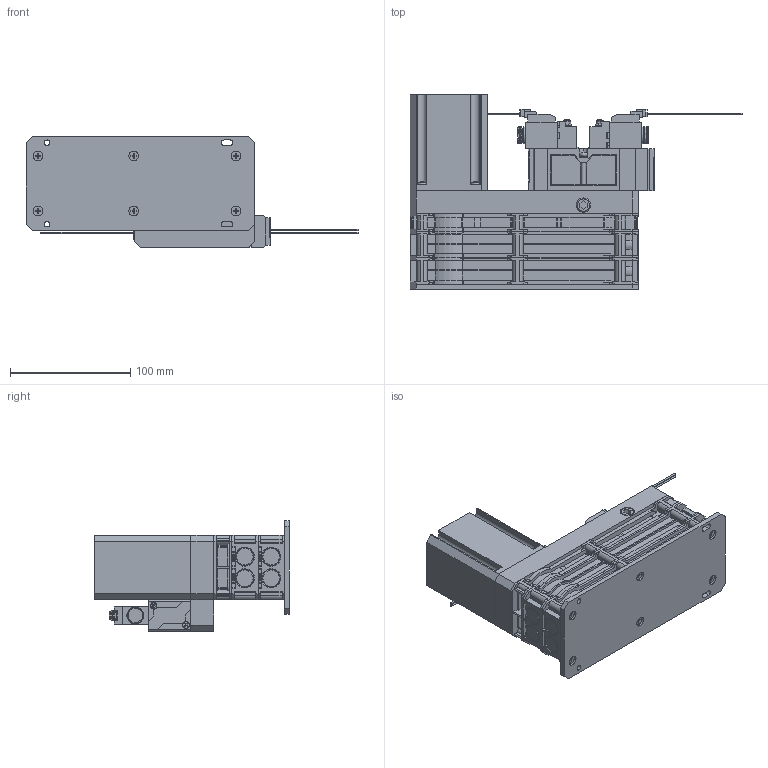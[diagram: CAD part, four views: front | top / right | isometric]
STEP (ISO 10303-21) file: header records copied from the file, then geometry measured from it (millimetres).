
FILE_DESCRIPTION(('STEP AP203'),'1');
FILE_NAME('BCVZ-3,4-ZSG-V_3D.stp','2024-08-30T09:33:10',(' '),(' '),'Spatial InterOp 3D',' ',' ');
FILE_SCHEMA(('CONFIG_CONTROL_DESIGN'));
Length unit declared in the file: millimetre
Products named in the file (26): BCVZ-3,4-ZSG-V; BCVZ-B_base; CVZ-U1_unit; CZS-U2_unit; CVZ-S_silencer; BCVZ-3,4-V-Z 공급베이스; PG2_____; NONE; BCVZ-3,4-V 밸브; 볼트; NAUO8; NAUO5; NAUO12; NAUO9; NAUO10; NAUO11
Assembly tree (37 placements, depth 4):
  BCVZ-3,4-ZSG-V
    BCVZ-B_base
    CVZ-U1_unit  x2
    CZS-U2_unit
    CVZ-S_silencer
    BCVZ-3,4-V-Z 공급베이스
    BCVZ-3,4-V 밸브
      PG2_____
        NONE  x2
        NONE
      볼트
      볼트
      PG2_____
        NONE  x2
        NONE
      NAUO8  x2
      NAUO5  x2
      NAUO5  x2
      NAUO5  x2
      NAUO5  x2
      NAUO5  x2
      NAUO12  x2
      NAUO12  x2
      NAUO9  x2
      NAUO10
      NAUO11
Bounding box: 276.65 x 162 x 92.2 mm (x, y, z)
Volume: 1071655.8 mm3; surface area: 264504.1 mm2
Topology: 34 solids, 34 shells, 2932 faces, 8029 edges, 5315 vertices
Faces by surface type: plane 1779, cylinder 1037, cone 70, torus 36, bspline 6, sphere 4
Full cylindrical faces by diameter (mm): 3.3 x2, 4 x6, 4.5 x2, 6.7 x2, 7 x4, 8 x9, 8.56 x1, 11.676 x1, 12 x2, 24 x1, 30.864 x1
Entity records: 67544 total; most frequent: CARTESIAN_POINT 13437, DIRECTION 11066, ORIENTED_EDGE 11012, EDGE_CURVE 5506, LINE 3772, VECTOR 3772, VERTEX_POINT 3683, AXIS2_PLACEMENT_3D 3647
